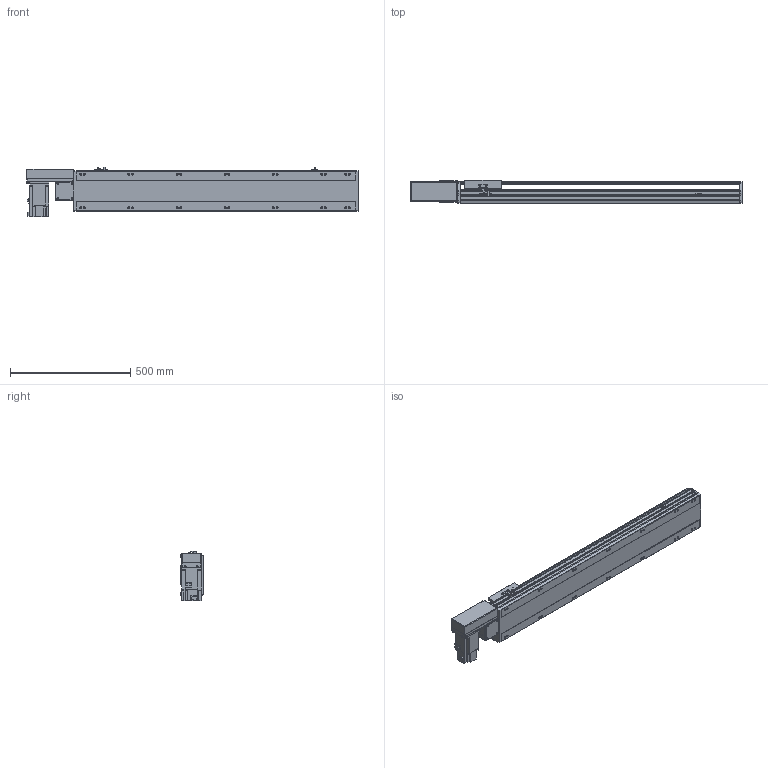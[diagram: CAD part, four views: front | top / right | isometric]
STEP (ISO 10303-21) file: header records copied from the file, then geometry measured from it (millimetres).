
FILE_DESCRIPTION(/* description */ ('STEP AP214'),/* implementation_level */ '2;1');
FILE_NAME(/* name */ 'PBS170-P40-S900-R-T75-C1-N(0)',/* time_stamp */ '2022-06-07T09:29:50+02:00',/* author */ ('License CC BY-ND 4.0'),/* organization */ ('CADENAS'),/* preprocessor_version */ 'ST-DEVELOPER v18.102',/* originating_system */ 'PARTsolutions',/* authorisation */ ' ');
FILE_SCHEMA (('AUTOMOTIVE_DESIGN {1 0 10303 214 3 1 1}'));
Length unit declared in the file: millimetre
Products named in the file (7): PBS170-P40-S900-R-T75-C1-N(0); PBS170_sensor; PBS170_plant; PBS170_sliser; T75-p1; PBS170T-R_motors; PBS170-S900()_body
Assembly tree (8 placements, depth 2):
  PBS170-P40-S900-R-T75-C1-N(0)
    PBS170_sensor  x3
    PBS170_plant
    PBS170_sliser
    T75-p1
    PBS170T-R_motors
    PBS170-S900()_body
Bounding box: 1378 x 97 x 205.3 mm (x, y, z)
Volume: 10276813 mm3; surface area: 1354627.6 mm2
Topology: 8 solids, 8 shells, 1066 faces, 2835 edges, 1848 vertices
Faces by surface type: plane 681, cylinder 331, cone 44, sphere 8, torus 2
Full cylindrical faces by diameter (mm): 3.242 x4, 4 x2, 4.4 x4, 4.5 x6, 4.917 x4, 6 x9, 6.647 x22, 7 x2, 7.5 x4, 8 x8, 8.5 x14, 10 x4, 10.5 x14, 11 x2, 30 x2, 40 x1, 70 x1
Entity records: 30660 total; most frequent: CARTESIAN_POINT 5601, DIRECTION 5230, ORIENTED_EDGE 4968, EDGE_CURVE 2484, AXIS2_PLACEMENT_3D 1807, VERTEX_POINT 1706, LINE 1616, VECTOR 1616
